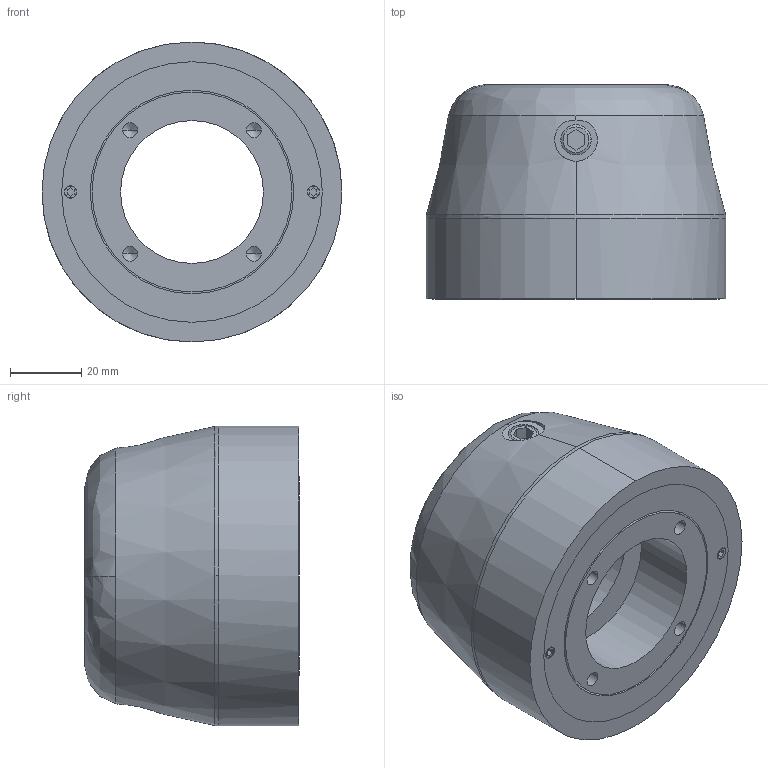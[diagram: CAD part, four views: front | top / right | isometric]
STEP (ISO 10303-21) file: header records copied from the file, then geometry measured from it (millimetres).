
FILE_DESCRIPTION (( 'STEP AP203' ), '1' );
FILE_NAME ('ccss48fc.STEP', '2019-05-20T19:29:59', ( '' ), ( '' ), 'SwSTEP 2.0', 'SolidWorks 2016', '' );
FILE_SCHEMA (( 'CONFIG_CONTROL_DESIGN' ));
Length unit declared in the file: millimetre
Products named in the file (1): ccss48fc
Bounding box: 84 x 60.1 x 84 mm (x, y, z)
Volume: 173626 mm3; surface area: 53605.4 mm2
Topology: 9 solids, 9 shells, 182 faces, 438 edges, 276 vertices
Faces by surface type: plane 66, cylinder 64, cone 38, bspline 14
Entity records: 6063 total; most frequent: CARTESIAN_POINT 1815, DIRECTION 874, ORIENTED_EDGE 852, EDGE_CURVE 426, AXIS2_PLACEMENT_3D 337, VERTEX_POINT 276, EDGE_LOOP 210, VECTOR 200
